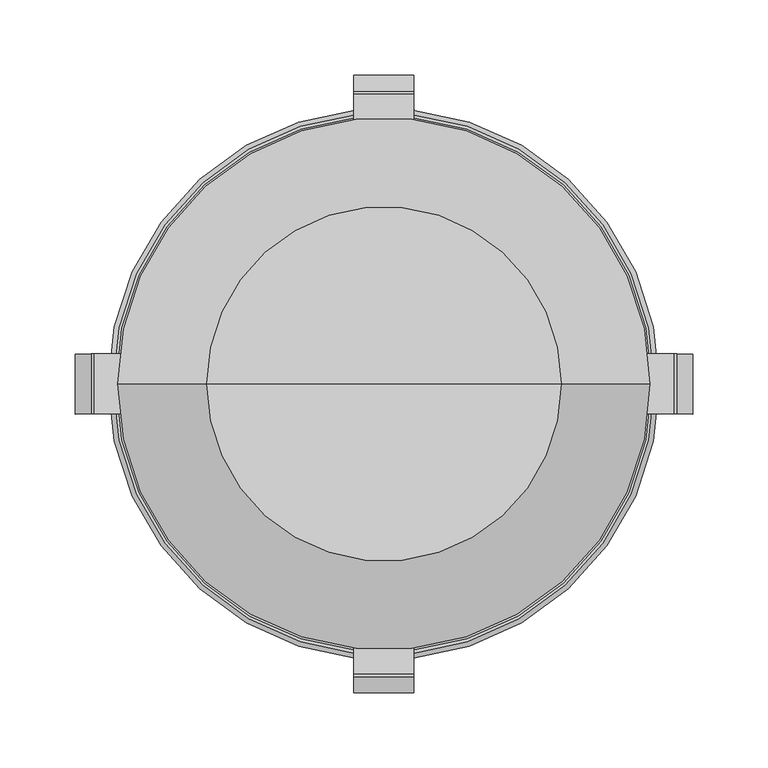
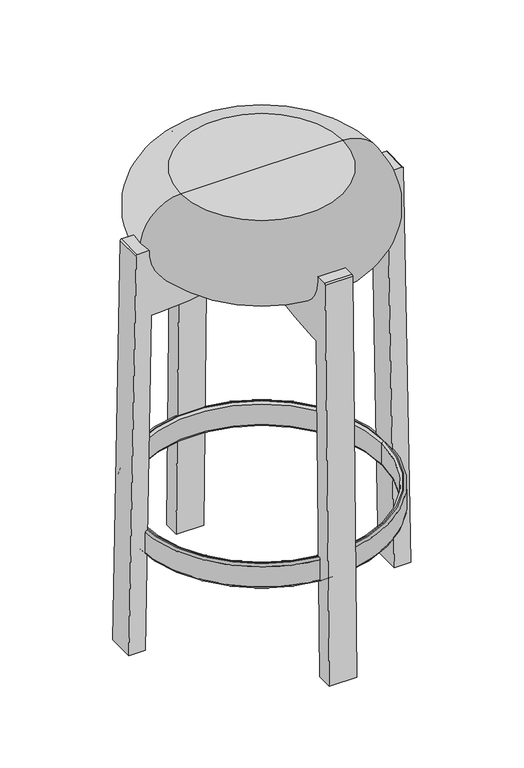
"""IFC4 building model written with IfcOpenShell, lengths in millimetres: furniture geometry, Fredericia - Pioneer Bar Stool Low - 6831 : Fredericia - Pioneer Bar Stool Low - 6831."""

from ifc_helpers import new_model, si_unit, point, frame, frame_2d, origin, origin_with_axes, place, context, project, spatial, polyline, circle_curve, ellipse_curve, trimmed, segment, composite_curve, outline, extrude, source, transform, mapped, element, save
from ifc_brep_helpers import plane_surface, cylinder_surface, revolved_surface, advanced_brep


def furniture_37271b22(model_context):
    return source(origin(), model_context, "Body", "SolidModel", [
        advanced_brep(
        [(175.4348457, 0.0, 149.9868025), (-175.4348457, 0.0, 149.9868025), (-175.4348457, 0.0, 180.9868025), (175.4348457, 0.0, 180.9868025), (178.4348457, 0.0, 146.9868025), (-178.4348457, 0.0, 146.9868025), (183.4908155, 0.0, 149.9362251), (-183.4908155, 0.0, 149.9362251), (-180.5413929, 0.0, 146.9868025), (180.5413929, 0.0, 146.9868025), (183.4908155, 0.0, 180.9925155), (-183.4908155, 0.0, 180.9925155), (180.4965285, 0.0, 183.9868025), (-180.4965285, 0.0, 183.9868025), (-178.4348457, 0.0, 183.9868025), (178.4348457, 0.0, 183.9868025)],
        [
            (0, 1, circle_curve(frame((0.0, 0.0, 149.9868025), z_axis=(0.0, 0.0, -1.0), x_axis=(-1.0, 0.0, 0.0)), 175.4348457)),
            (1, 2),
            (2, 3, circle_curve(frame((0.0, 0.0, 180.9868025), z_axis=(0.0, 0.0, 1.0), x_axis=(-1.0, 0.0, 0.0)), 175.4348457)),
            (3, 0),
            (4, 5, circle_curve(frame((0.0, 0.0, 146.9868025), z_axis=(0.0, 0.0, -1.0), x_axis=(-1.0, 0.0, 0.0)), 178.4348457)),
            (5, 1, circle_curve(frame((-178.4348457, 0.0, 149.9868025), z_axis=(0.0, -1.0, 0.0), x_axis=(1.0, 0.0, 0.0)), 3.0)),
            (0, 4, circle_curve(frame((178.4348457, 0.0, 149.9868025), z_axis=(0.0, -1.0, 0.0), x_axis=(-1.0, 0.0, 0.0)), 3.0)),
            (6, 7, circle_curve(frame((0.0, 0.0, 149.9362251), z_axis=(0.0, 0.0, -1.0), x_axis=(-1.0, 0.0, 0.0)), 183.4908155)),
            (7, 8, circle_curve(frame((-180.5413929, 0.0, 149.9362251), z_axis=(0.0, -1.0, 0.0), x_axis=(1.0, 0.0, 0.0)), 2.9494226)),
            (8, 9, circle_curve(frame((0.0, 0.0, 146.9868025), z_axis=(0.0, 0.0, 1.0), x_axis=(-1.0, 0.0, 0.0)), 180.5413929)),
            (9, 6, circle_curve(frame((180.5413929, 0.0, 149.9362251), z_axis=(0.0, -1.0, 0.0), x_axis=(-1.0, 0.0, 0.0)), 2.9494226)),
            (10, 11, circle_curve(frame((0.0, 0.0, 180.9925155), z_axis=(0.0, 0.0, -1.0), x_axis=(-1.0, 0.0, 0.0)), 183.4908155)),
            (11, 7),
            (6, 10),
            (12, 13, circle_curve(frame((0.0, 0.0, 183.9868025), z_axis=(0.0, 0.0, -1.0), x_axis=(-1.0, 0.0, 0.0)), 180.4965285)),
            (13, 11, circle_curve(frame((-180.4965285, 0.0, 180.9925155), z_axis=(0.0, -1.0, 0.0), x_axis=(1.0, 0.0, 0.0)), 2.994287)),
            (10, 12, circle_curve(frame((180.4965285, 0.0, 180.9925155), z_axis=(0.0, -1.0, 0.0), x_axis=(-1.0, 0.0, 0.0)), 2.994287)),
            (2, 14, circle_curve(frame((-178.4348457, 0.0, 180.9868025), z_axis=(0.0, -1.0, 0.0), x_axis=(1.0, 0.0, 0.0)), 3.0)),
            (14, 15, circle_curve(frame((0.0, 0.0, 183.9868025), z_axis=(0.0, 0.0, 1.0), x_axis=(-1.0, 0.0, 0.0)), 178.4348457)),
            (15, 3, circle_curve(frame((178.4348457, 0.0, 180.9868025), z_axis=(0.0, -1.0, 0.0), x_axis=(-1.0, 0.0, 0.0)), 3.0)),
            (1, 0, circle_curve(frame((0.0, 0.0, 149.9868025), z_axis=(0.0, 0.0, -1.0), x_axis=(1.0, 0.0, 0.0)), 175.4348457)),
            (3, 2, circle_curve(frame((0.0, 0.0, 180.9868025), z_axis=(0.0, 0.0, 1.0), x_axis=(1.0, 0.0, 0.0)), 175.4348457)),
            (5, 4, circle_curve(frame((0.0, 0.0, 146.9868025), z_axis=(0.0, 0.0, -1.0), x_axis=(1.0, 0.0, 0.0)), 178.4348457)),
            (8, 9, circle_curve(frame((0.0, 0.0, 146.9868025), z_axis=(0.0, 0.0, -1.0), x_axis=(1.0, 0.0, 0.0)), 180.5413929)),
            (7, 6, circle_curve(frame((0.0, 0.0, 149.9362251), z_axis=(0.0, 0.0, -1.0), x_axis=(1.0, 0.0, 0.0)), 183.4908155)),
            (11, 10, circle_curve(frame((0.0, 0.0, 180.9925155), z_axis=(0.0, 0.0, -1.0), x_axis=(1.0, 0.0, 0.0)), 183.4908155)),
            (13, 12, circle_curve(frame((0.0, 0.0, 183.9868025), z_axis=(0.0, 0.0, -1.0), x_axis=(1.0, 0.0, 0.0)), 180.4965285)),
            (14, 15, circle_curve(frame((0.0, 0.0, 183.9868025), z_axis=(0.0, 0.0, -1.0), x_axis=(1.0, 0.0, 0.0)), 178.4348457)),
        ],
        [
            revolved_surface(polyline([(-175.4348457, 0.0, 180.9868025), (-175.4348457, 0.0, 149.9868025)]), (0.0, 0.0, 0.0), (0.0, 0.0, 1.0)),
            revolved_surface(trimmed(ellipse_curve(frame((-178.4348457, 0.0, 149.9868025), z_axis=(0.0, 1.0, 0.0), x_axis=(1.0, 0.0, 0.0)), 3.0, 3.0), [point((-175.4348457, 0.0, 149.9868025))], [point((-178.4348457, 0.0, 146.9868025))], True, "CARTESIAN"), (0.0, 0.0, 0.0), (0.0, 0.0, 1.0)),
            revolved_surface(trimmed(ellipse_curve(frame((-180.5413929, 0.0, 149.9362251), z_axis=(0.0, 1.0, 0.0), x_axis=(1.0, 0.0, 0.0)), 2.9494226, 2.9494226), [point((-180.5413929, 0.0, 146.9868025))], [point((-183.4908155, 0.0, 149.9362251))], True, "CARTESIAN"), (0.0, 0.0, 0.0), (0.0, 0.0, 1.0)),
            cylinder_surface(frame((0.0, 0.0, 0.0), z_axis=(0.0, 0.0, 1.0), x_axis=(-1.0, 0.0, 0.0)), 183.4908155),
            revolved_surface(trimmed(ellipse_curve(frame((-180.4965285, 0.0, 180.9925155), z_axis=(0.0, 1.0, 0.0), x_axis=(1.0, 0.0, 0.0)), 2.994287, 2.994287), [point((-183.4908155, 0.0, 180.9925155))], [point((-180.4965285, 0.0, 183.9868025))], True, "CARTESIAN"), (0.0, 0.0, 0.0), (0.0, 0.0, 1.0)),
            revolved_surface(trimmed(ellipse_curve(frame((-178.4348457, 0.0, 180.9868025), z_axis=(0.0, 1.0, 0.0), x_axis=(1.0, 0.0, 0.0)), 3.0, 3.0), [point((-178.4348457, 0.0, 183.9868025))], [point((-175.4348457, 0.0, 180.9868025))], True, "CARTESIAN"), (0.0, 0.0, 0.0), (0.0, 0.0, 1.0)),
            revolved_surface(polyline([(175.4348457, 0.0, 180.9868025), (175.4348457, 0.0, 149.9868025)]), (0.0, 0.0, 0.0), (0.0, 0.0, 1.0)),
            revolved_surface(trimmed(ellipse_curve(frame((178.4348457, 0.0, 149.9868025), z_axis=(0.0, -1.0, 0.0), x_axis=(-1.0, 0.0, 0.0)), 3.0, 3.0), [point((175.4348457, 0.0, 149.9868025))], [point((178.4348457, 0.0, 146.9868025))], True, "CARTESIAN"), (0.0, 0.0, 0.0), (0.0, 0.0, 1.0)),
            plane_surface(frame((0.0, 0.0, 146.9868025), z_axis=(0.0, 0.0, -1.0), x_axis=(1.0, 0.0, 0.0))),
            revolved_surface(trimmed(ellipse_curve(frame((180.5413929, 0.0, 149.9362251), z_axis=(0.0, -1.0, 0.0), x_axis=(-1.0, 0.0, 0.0)), 2.9494226, 2.9494226), [point((180.5413929, 0.0, 146.9868025))], [point((183.4908155, 0.0, 149.9362251))], True, "CARTESIAN"), (0.0, 0.0, 0.0), (0.0, 0.0, 1.0)),
            cylinder_surface(origin_with_axes(), 183.4908155),
            revolved_surface(trimmed(ellipse_curve(frame((180.4965285, 0.0, 180.9925155), z_axis=(0.0, -1.0, 0.0), x_axis=(-1.0, 0.0, 0.0)), 2.994287, 2.994287), [point((183.4908155, 0.0, 180.9925155))], [point((180.4965285, 0.0, 183.9868025))], True, "CARTESIAN"), (0.0, 0.0, 0.0), (0.0, 0.0, 1.0)),
            plane_surface(frame((0.0, 0.0, 183.9868025), z_axis=(0.0, 0.0, 1.0), x_axis=(1.0, 0.0, 0.0))),
            revolved_surface(trimmed(ellipse_curve(frame((178.4348457, 0.0, 180.9868025), z_axis=(0.0, -1.0, 0.0), x_axis=(-1.0, 0.0, 0.0)), 3.0, 3.0), [point((178.4348457, 0.0, 183.9868025))], [point((175.4348457, 0.0, 180.9868025))], True, "CARTESIAN"), (0.0, 0.0, 0.0), (0.0, 0.0, 1.0)),
        ],
        [
            (0, [[1, 2, 3, 4]]),
            (1, [[5, 6, -1, 7]]),
            (2, [[8, 9, 10, 11]]),
            (3, [[12, 13, -8, 14]]),
            (4, [[15, 16, -12, 17]]),
            (5, [[-3, 18, 19, 20]]),
            (6, [[21, -4, 22, -2]]),
            (7, [[23, -7, -21, -6]]),
            (8, [[24, -10], [-23, -5]]),
            (9, [[25, -11, -24, -9]]),
            (10, [[26, -14, -25, -13]]),
            (11, [[27, -17, -26, -16]]),
            (12, [[-27, -15], [28, -19]]),
            (13, [[-22, -20, -28, -18]]),
        ],
    ),
        advanced_brep(
        [(0.0, 0.0, 670.0), (117.9870051, 0.0, 670.0), (-117.9870051, 0.0, 670.0), (-117.9870051, 0.0, 550.9896967), (117.9870051, 0.0, 550.9896967), (0.0, 0.0, 550.9896967)],
        [
            (0, 1),
            (1, 2, circle_curve(frame((0.0, 0.0, 670.0), z_axis=(0.0, 0.0, 1.0), x_axis=(1.0, 0.0, 0.0)), 117.9870051)),
            (2, 0),
            (2, 1, circle_curve(frame((0.0, 0.0, 670.0), z_axis=(0.0, 0.0, 1.0), x_axis=(1.0, 0.0, 0.0)), 117.9870051)),
            (3, 4, circle_curve(frame((0.0, 0.0, 550.9896967), z_axis=(0.0, 0.0, -1.0), x_axis=(1.0, 0.0, 0.0)), 117.9870051)),
            (4, 5),
            (5, 3),
            (4, 3, circle_curve(frame((0.0, 0.0, 550.9896967), z_axis=(0.0, 0.0, -1.0), x_axis=(1.0, 0.0, 0.0)), 117.9870051)),
            (1, 4, circle_curve(frame((117.9870051, 0.0, 610.4948483), z_axis=(0.0, 1.0, 0.0), x_axis=(1.0, 0.0, 0.0)), 59.5051517)),
            (3, 2, circle_curve(frame((-117.9870051, 0.0, 610.4948483), z_axis=(0.0, 1.0, 0.0), x_axis=(-1.0, 0.0, 0.0)), 59.5051517)),
        ],
        [
            plane_surface(frame((0.0, 0.0, 670.0), z_axis=(0.0, 0.0, 1.0), x_axis=(1.0, 0.0, 0.0))),
            plane_surface(frame((0.0, 0.0, 550.9896967), z_axis=(0.0, 0.0, -1.0), x_axis=(1.0, 0.0, 0.0))),
            revolved_surface(trimmed(ellipse_curve(frame((117.9870051, 0.0, 610.4948483), z_axis=(0.0, -1.0, 0.0), x_axis=(1.0, 0.0, 0.0)), 59.5051517, 59.5051517), [point((117.9870051, 0.0, 550.9896967))], [point((117.9870051, 0.0, 670.0))], True, "CARTESIAN"), (0.0, 0.0, 709.4896967), (0.0, 0.0, 1.0)),
        ],
        [
            (0, [[1, 2, 3]]),
            (0, [[-3, 4, -1]]),
            (1, [[5, 6, 7]]),
            (1, [[8, -7, -6]]),
            (2, [[-2, 9, -5, 10]]),
            (2, [[-4, -10, -8, -9]]),
        ],
    ),
        extrude(outline(composite_curve([segment(polyline([(614.4896967, 193.0289245), (614.4896967, 174.9912725), (613.5758804, 175.0072232)]), True, "CONTINUOUS"), segment(trimmed(circle_curve(frame_2d((612.553796, 116.4520435)), 58.5640993), [point((613.5758804, 175.0072232))], [point((553.9896967, 116.4520435))], True, "CARTESIAN"), True, "CONTINUOUS"), segment(polyline([(553.9896967, 116.4520435), (553.9896967, 20.0), (540.9896967, 20.0), (540.9896967, 0.0), (540.9896967, -20.0), (553.9896967, -20.0), (553.9896967, -116.4520435)]), True, "CONTINUOUS"), segment(trimmed(circle_curve(frame_2d((612.553796, -116.4520435)), 58.5640993), [point((553.9896967, -116.4520435))], [point((613.5758804, -175.0072232))], True, "CARTESIAN"), True, "CONTINUOUS"), segment(polyline([(613.5758804, -175.0072232), (614.4896967, -174.9912725), (614.4896967, -193.0289245)]), True, "CONTINUOUS"), segment(trimmed(circle_curve(frame_2d((612.4896967, -193.0289245)), 2.0), [point((614.4896967, -193.0289245))], [point((612.5246015, -195.0286199))], False, "CARTESIAN"), True, "CONTINUOUS"), segment(polyline([(612.5246015, -195.0286199), (0.0, -205.7202766), (0.0, -181.8771157), (513.7396967, -172.909756), (513.7396967, -162.8043593)]), True, "CONTINUOUS"), segment(trimmed(circle_curve(frame_2d((800.087552, -162.8043593)), 286.3478554), [point((513.7396967, -162.8043593))], [point((517.265114, -118.0096857))], False, "CARTESIAN"), True, "CONTINUOUS"), segment(polyline([(517.265114, -118.0096857), (520.5031496, -97.5655332)]), True, "CONTINUOUS"), segment(trimmed(circle_curve(frame_2d((240.7990259, -53.2647521)), 283.1906708), [point((520.5031496, -97.5655332))], [point((523.9896967, -53.2647521))], True, "CARTESIAN"), True, "CONTINUOUS"), segment(polyline([(523.9896967, -53.2647521), (523.9896967, 1.9722781), (523.9896967, 53.2647521)]), True, "CONTINUOUS"), segment(trimmed(circle_curve(frame_2d((240.7990259, 53.2647521)), 283.1906708), [point((523.9896967, 53.2647521))], [point((520.5031496, 97.5655332))], True, "CARTESIAN"), True, "CONTINUOUS"), segment(polyline([(520.5031496, 97.5655332), (517.265114, 118.0096857)]), True, "CONTINUOUS"), segment(trimmed(circle_curve(frame_2d((800.087552, 162.8043593)), 286.3478554), [point((517.265114, 118.0096857))], [point((513.7396967, 162.8043593))], False, "CARTESIAN"), True, "CONTINUOUS"), segment(polyline([(513.7396967, 162.8043593), (513.7396967, 172.909756), (0.0, 181.8771157), (0.0, 205.7202766), (612.5246015, 195.0286199)]), True, "CONTINUOUS"), segment(trimmed(circle_curve(frame_2d((612.4896967, 193.0289245)), 2.0), [point((612.5246015, 195.0286199))], [point((614.4896967, 193.0289245))], False, "CARTESIAN"), True, "CONTINUOUS")], self_intersect=False)), frame((0.0, -20.0, 0.0), z_axis=(0.0, 1.0, 0.0), x_axis=(0.0, 0.0, 1.0)), (0.0, 0.0, 1.0), 40.0),
        extrude(outline(composite_curve([segment(trimmed(circle_curve(frame_2d((193.0289245, 612.4896967)), 2.0), [point((193.0289245, 614.4896967))], [point((195.0286199, 612.5246015))], False, "CARTESIAN"), True, "CONTINUOUS"), segment(polyline([(195.0286199, 612.5246015), (205.7202766, 0.0), (181.8771157, 0.0), (172.909756, 513.7396967), (162.8043593, 513.7396967)]), True, "CONTINUOUS"), segment(trimmed(circle_curve(frame_2d((162.8043593, 800.087552)), 286.3478554), [point((162.8043593, 513.7396967))], [point((118.0096857, 517.265114))], False, "CARTESIAN"), True, "CONTINUOUS"), segment(polyline([(118.0096857, 517.265114), (97.5655332, 520.5031496)]), True, "CONTINUOUS"), segment(trimmed(circle_curve(frame_2d((53.2647521, 240.7990259)), 283.1906708), [point((97.5655332, 520.5031496))], [point((53.2647521, 523.9896967))], True, "CARTESIAN"), True, "CONTINUOUS"), segment(polyline([(53.2647521, 523.9896967), (20.0, 523.9896967), (20.0, 540.9896967), (0.0, 540.9896967), (-20.0, 540.9896967), (-20.0, 523.9896967), (-53.2647521, 523.9896967)]), True, "CONTINUOUS"), segment(trimmed(circle_curve(frame_2d((-53.2647521, 240.7990259)), 283.1906708), [point((-53.2647521, 523.9896967))], [point((-97.5655332, 520.5031496))], True, "CARTESIAN"), True, "CONTINUOUS"), segment(polyline([(-97.5655332, 520.5031496), (-118.0096857, 517.265114)]), True, "CONTINUOUS"), segment(trimmed(circle_curve(frame_2d((-162.8043593, 800.087552)), 286.3478554), [point((-118.0096857, 517.265114))], [point((-162.8043593, 513.7396967))], False, "CARTESIAN"), True, "CONTINUOUS"), segment(polyline([(-162.8043593, 513.7396967), (-172.909756, 513.7396967), (-181.8771157, 0.0), (-205.7202766, 0.0), (-195.0286199, 612.5246015)]), True, "CONTINUOUS"), segment(trimmed(circle_curve(frame_2d((-193.0289245, 612.4896967)), 2.0), [point((-195.0286199, 612.5246015))], [point((-193.0289245, 614.4896967))], False, "CARTESIAN"), True, "CONTINUOUS"), segment(polyline([(-193.0289245, 614.4896967), (-174.9912725, 614.4896967), (-175.0072232, 613.5758804)]), True, "CONTINUOUS"), segment(trimmed(circle_curve(frame_2d((-116.4520435, 612.553796)), 58.5640993), [point((-175.0072232, 613.5758804))], [point((-116.4520435, 553.9896967))], True, "CARTESIAN"), True, "CONTINUOUS"), segment(polyline([(-116.4520435, 553.9896967), (0.0, 553.9896967), (116.4520435, 553.9896967)]), True, "CONTINUOUS"), segment(trimmed(circle_curve(frame_2d((116.4520435, 612.553796)), 58.5640993), [point((116.4520435, 553.9896967))], [point((175.0072232, 613.5758804))], True, "CARTESIAN"), True, "CONTINUOUS"), segment(polyline([(175.0072232, 613.5758804), (174.9912725, 614.4896967), (193.0289245, 614.4896967)]), True, "CONTINUOUS")], self_intersect=False)), frame((-20.0, 0.0, 0.0), z_axis=(1.0, 0.0, 0.0), x_axis=(0.0, 1.0, 0.0)), (0.0, 0.0, 1.0), 40.0),
    ])


if __name__ == "__main__":
    model = new_model("IFC4")
    model_context = context("Model", 3, world=origin())
    ifc_project = project(units=[si_unit("LENGTHUNIT", "METRE", prefix="MILLI")], contexts=[model_context])
    site = spatial("IfcSite", under=ifc_project)
    building = spatial("IfcBuilding", under=site)
    placement = place(None, origin())
    furniture_shape = furniture_37271b22(model_context)
    element("IfcFurniture", 1, ObjectType="Fredericia - Pioneer Bar Stool Low - 6831 : Fredericia - Pioneer Bar Stool Low - 6831", at=placement, inside=building, context=model_context, shape_type="MappedRepresentation", body=[
        mapped(furniture_shape, transform((0.0, 0.0, 0.0), x_axis=(1.0, 0.0, 0.0), y_axis=(0.0, 1.0, 0.0), z_axis=(0.0, 0.0, 1.0))),
    ])
    save(model, "model.ifc")
